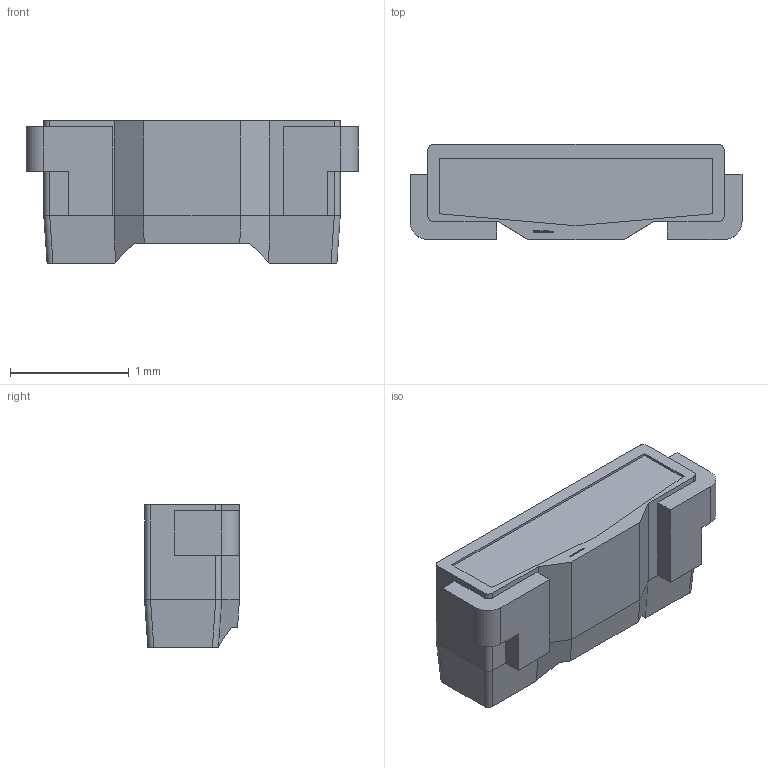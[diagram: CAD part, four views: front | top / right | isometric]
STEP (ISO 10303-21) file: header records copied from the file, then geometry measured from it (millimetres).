
FILE_DESCRIPTION (( 'STEP AP214' ), '1' );
FILE_NAME ('AA2810ASESJ3.STEP', '2023-01-14T10:22:03', ( '' ), ( '' ), 'SwSTEP 2.0', 'SolidWorks 2022', '' );
FILE_SCHEMA (( 'AUTOMOTIVE_DESIGN' ));
Length unit declared in the file: millimetre
Products named in the file (1): AA2810ASESJ3
Bounding box: 2.8 x 0.8 x 1.2 mm (x, y, z)
Surface area: 17.5 mm2 (no closed solid volume)
Topology: 0 solids, 6 shells, 93 faces, 398 edges, 341 vertices
Faces by surface type: plane 81, cylinder 12
Entity records: 5437 total; most frequent: CARTESIAN_POINT 1606, ORIENTED_EDGE 792, EDGE_CURVE 398, VERTEX_POINT 341, DIRECTION 333, B_SPLINE_CURVE_WITH_KNOTS 251, VECTOR 125, LINE 125
